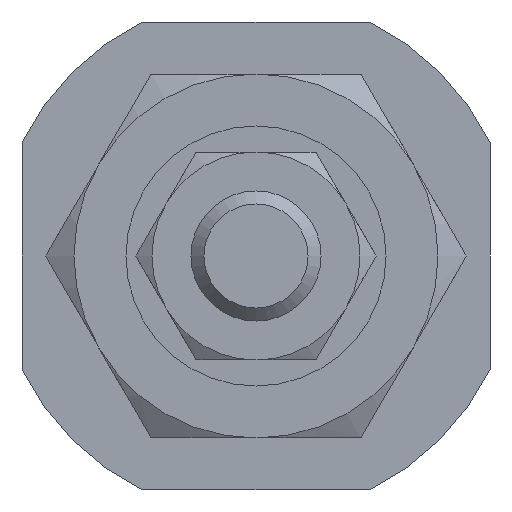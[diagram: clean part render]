
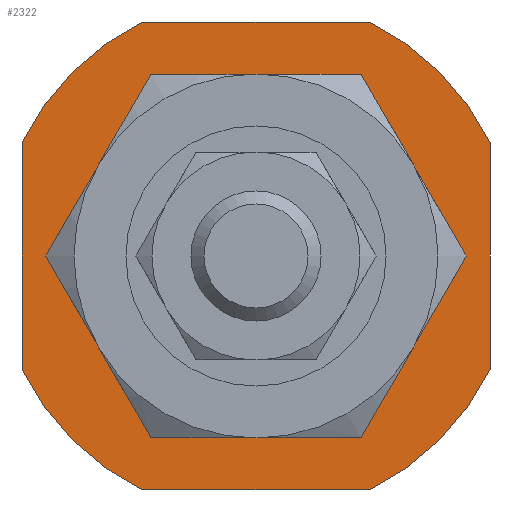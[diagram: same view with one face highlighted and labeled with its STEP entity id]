
A CAD part, left-side view. The second image highlights one B-rep face of the part: STEP entity #2322.
In plain terms, the highlighted planar face has unit normal (-1, 0, 0).
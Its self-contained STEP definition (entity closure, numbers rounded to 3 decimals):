
#1926=CARTESIAN_POINT('',(-100.899,-4.359,9.));
#1927=VERTEX_POINT('',#1926);
#1942=CARTESIAN_POINT('',(-100.899,4.359,9.0));
#1943=VERTEX_POINT('',#1942);
#1950=CARTESIAN_POINT('',(-100.899,-4.359,9.));
#1951=DIRECTION('',(0.0,1.0,0.0));
#1952=VECTOR('',#1951,8.718);
#1953=LINE('',#1950,#1952);
#1954=EDGE_CURVE('',#1927,#1943,#1953,.T.);
#2003=CARTESIAN_POINT('',(-100.899,4.359,-9.0));
#2004=VERTEX_POINT('',#2003);
#2019=CARTESIAN_POINT('',(-100.899,-4.359,-9.));
#2020=VERTEX_POINT('',#2019);
#2027=CARTESIAN_POINT('',(-100.899,4.359,-9.0));
#2028=DIRECTION('',(0.0,-1.0,0.0));
#2029=VECTOR('',#2028,8.718);
#2030=LINE('',#2027,#2029);
#2031=EDGE_CURVE('',#2004,#2020,#2030,.T.);
#2043=CARTESIAN_POINT('',(-100.899,-9.,-4.359));
#2044=VERTEX_POINT('',#2043);
#2059=CARTESIAN_POINT('',(-100.899,-9.,4.359));
#2060=VERTEX_POINT('',#2059);
#2067=CARTESIAN_POINT('',(-100.899,-9.,-4.359));
#2068=DIRECTION('',(0.0,0.0,1.0));
#2069=VECTOR('',#2068,8.718);
#2070=LINE('',#2067,#2069);
#2071=EDGE_CURVE('',#2044,#2060,#2070,.T.);
#2083=CARTESIAN_POINT('',(-100.899,9.,4.359));
#2084=VERTEX_POINT('',#2083);
#2099=CARTESIAN_POINT('',(-100.899,9.,-4.359));
#2100=VERTEX_POINT('',#2099);
#2107=CARTESIAN_POINT('',(-100.899,9.,4.359));
#2108=DIRECTION('',(0.0,0.0,-1.0));
#2109=VECTOR('',#2108,8.718);
#2110=LINE('',#2107,#2109);
#2111=EDGE_CURVE('',#2084,#2100,#2110,.T.);
#2232=CARTESIAN_POINT('',(-100.899,0.,0.0));
#2233=DIRECTION('',(-1.0,0.,0.0));
#2234=DIRECTION('',(0.,1.0,0.0));
#2235=AXIS2_PLACEMENT_3D('',#2232,#2233,#2234);
#2236=CIRCLE('',#2235,10.);
#2237=EDGE_CURVE('',#1943,#2084,#2236,.T.);
#2256=CARTESIAN_POINT('',(-100.899,0.,0.0));
#2257=DIRECTION('',(-1.0,0.,0.0));
#2258=DIRECTION('',(0.,1.0,0.0));
#2259=AXIS2_PLACEMENT_3D('',#2256,#2257,#2258);
#2260=CIRCLE('',#2259,10.);
#2261=EDGE_CURVE('',#2020,#2044,#2260,.T.);
#2272=CARTESIAN_POINT('',(-100.899,0.,0.0));
#2273=DIRECTION('',(-1.0,0.,0.0));
#2274=DIRECTION('',(0.,1.0,0.0));
#2275=AXIS2_PLACEMENT_3D('',#2272,#2273,#2274);
#2276=CIRCLE('',#2275,10.);
#2277=EDGE_CURVE('',#2100,#2004,#2276,.T.);
#2290=CARTESIAN_POINT('',(-100.899,7.5,0.0));
#2291=DIRECTION('',(-1.0,0.0,0.0));
#2292=DIRECTION('',(0.0,0.0,1.0));
#2293=AXIS2_PLACEMENT_3D('',#2290,#2291,#2292);
#2294=PLANE('',#2293);
#2295=ORIENTED_EDGE('',*,*,#1954,.T.);
#2296=ORIENTED_EDGE('',*,*,#2237,.T.);
#2297=ORIENTED_EDGE('',*,*,#2111,.T.);
#2298=ORIENTED_EDGE('',*,*,#2277,.T.);
#2299=ORIENTED_EDGE('',*,*,#2031,.T.);
#2300=ORIENTED_EDGE('',*,*,#2261,.T.);
#2301=ORIENTED_EDGE('',*,*,#2071,.T.);
#2302=CARTESIAN_POINT('',(-100.899,0.,0.0));
#2303=DIRECTION('',(-1.0,0.,0.0));
#2304=DIRECTION('',(0.,1.0,0.0));
#2305=AXIS2_PLACEMENT_3D('',#2302,#2303,#2304);
#2306=CIRCLE('',#2305,10.);
#2307=EDGE_CURVE('',#2060,#1927,#2306,.T.);
#2308=ORIENTED_EDGE('',*,*,#2307,.T.);
#2309=EDGE_LOOP('',(#2295,#2296,#2297,#2298,#2299,#2300,#2301,#2308));
#2310=FACE_OUTER_BOUND('',#2309,.T.);
#2311=CARTESIAN_POINT('',(-100.899,5.,0.0));
#2312=VERTEX_POINT('',#2311);
#2313=CARTESIAN_POINT('',(-100.899,0.,0.0));
#2314=DIRECTION('',(-1.0,0.,0.0));
#2315=DIRECTION('',(0.,1.0,0.0));
#2316=AXIS2_PLACEMENT_3D('',#2313,#2314,#2315);
#2317=CIRCLE('',#2316,5.);
#2318=EDGE_CURVE('',#2312,#2312,#2317,.T.);
#2319=ORIENTED_EDGE('',*,*,#2318,.F.);
#2320=EDGE_LOOP('',(#2319));
#2321=FACE_BOUND('',#2320,.T.);
#2322=ADVANCED_FACE('',(#2310,#2321),#2294,.T.);
